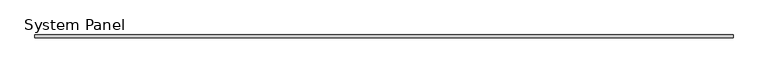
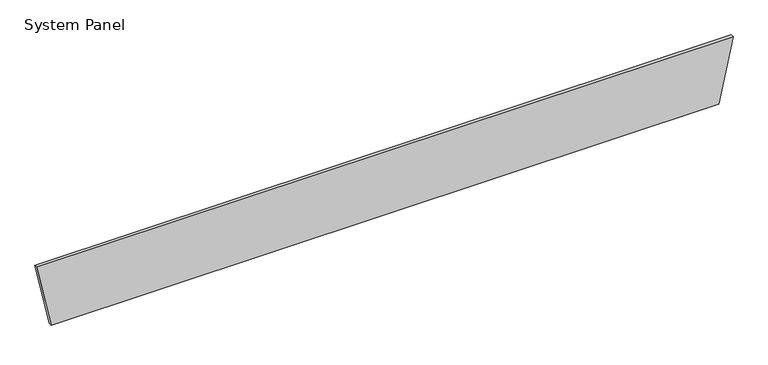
"""IFC4 building model written with IfcOpenShell, lengths in millimetres: plate geometry, System Panel : Equitilt_50mm_Plain_Surfmist."""

from ifc_helpers import new_model, si_unit, frame, origin, place, context, project, spatial, polyline, outline, extrude, source, transform, mapped, element, save


def system_panel_713098a9(model_context):
    return source(origin(), model_context, "Body", "SweptSolid", [
        extrude(outline(polyline([(0.0, -6000.0), (0.0, 6000.0), (1200.0, 6260.8716619), (1200.0, -6260.8716619), (0.0, -6000.0)])), frame((0.0, -50.0, 0.0), z_axis=(0.0, 1.0, 0.0), x_axis=(0.0, 0.0, 1.0)), (0.0, 0.0, 1.0), 50.0),
    ])


if __name__ == "__main__":
    model = new_model("IFC4")
    model_context = context("Model", 3, world=origin())
    ifc_project = project(units=[si_unit("LENGTHUNIT", "METRE", prefix="MILLI")], contexts=[model_context])
    site = spatial("IfcSite", under=ifc_project)
    building = spatial("IfcBuilding", under=site)
    placement = place(None, origin())
    system_panel_shape = system_panel_713098a9(model_context)
    element("IfcPlate", 1, ObjectType="System Panel : Equitilt_50mm_Plain_Surfmist", at=placement, inside=building, context=model_context, shape_type="MappedRepresentation", body=[
        mapped(system_panel_shape, transform((0.0, 0.0, 0.0), x_axis=(1.0, 0.0, 0.0), y_axis=(0.0, 1.0, 0.0), z_axis=(0.0, 0.0, 1.0))),
    ])
    save(model, "model.ifc")
